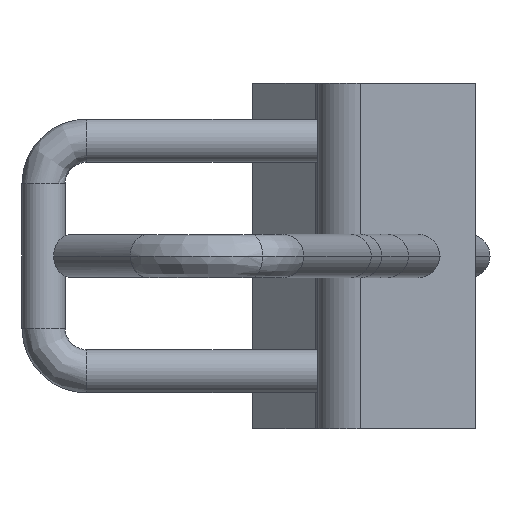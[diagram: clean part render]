
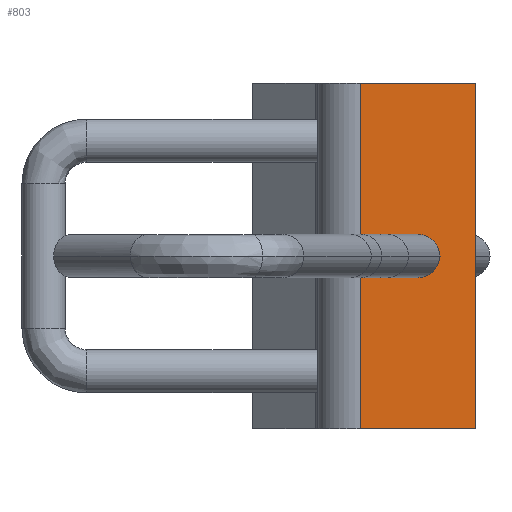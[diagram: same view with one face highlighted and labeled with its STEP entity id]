
A CAD part, left-side view. The second image highlights one B-rep face of the part: STEP entity #803.
In plain terms, the highlighted planar face has unit normal (-1, 0, 0).
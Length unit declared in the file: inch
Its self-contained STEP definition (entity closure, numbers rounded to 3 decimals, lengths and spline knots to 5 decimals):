
#575=EDGE_CURVE('',#1025,#1340,#1341,.T.);
#649=EDGE_CURVE('',#1448,#1449,#1450,.T.);
#729=EDGE_CURVE('',#1340,#1449,#1556,.T.);
#803=ADVANCED_FACE('',(#1654,#1655),#1656,.T.);
#823=EDGE_CURVE('',#1681,#1682,#1683,.T.);
#855=EDGE_CURVE('',#1025,#1448,#1720,.T.);
#857=EDGE_CURVE('',#1682,#1681,#1722,.T.);
#1025=VERTEX_POINT('',#1919);
#1340=VERTEX_POINT('',#3029);
#1341=LINE('',#3030,#3031);
#1448=VERTEX_POINT('',#3267);
#1449=VERTEX_POINT('',#3268);
#1450=LINE('',#3269,#3270);
#1556=LINE('',#3479,#3480);
#1654=FACE_OUTER_BOUND('',#3721,.T.);
#1655=FACE_BOUND('',#3722,.T.);
#1656=PLANE('',#3723);
#1681=VERTEX_POINT('',#3760);
#1682=VERTEX_POINT('',#3761);
#1683=ELLIPSE('',#3762,0.19058,0.1875);
#1720=LINE('',#3824,#3825);
#1722=ELLIPSE('',#3828,0.19058,0.1875);
#1919=CARTESIAN_POINT('',(3.52252,-1.14678,0.0));
#3029=CARTESIAN_POINT('',(3.52252,-1.14678,3.0));
#3030=CARTESIAN_POINT('',(3.52252,-1.14678,0.0));
#3031=VECTOR('',#4534,1.0);
#3267=CARTESIAN_POINT('',(3.52252,-0.14678,0.0));
#3268=CARTESIAN_POINT('',(3.52252,-0.14678,3.0));
#3269=CARTESIAN_POINT('',(3.52252,-0.14678,0.0));
#3270=VECTOR('',#4629,1.0);
#3479=CARTESIAN_POINT('',(3.52252,-1.14678,3.0));
#3480=VECTOR('',#4739,1.0);
#3721=EDGE_LOOP('',(#4896,#4897,#4898,#4899));
#3722=EDGE_LOOP('',(#4900,#4901));
#3723=AXIS2_PLACEMENT_3D('',#4902,#4903,#4904);
#3760=CARTESIAN_POINT('',(3.52252,-0.83131,1.5));
#3761=CARTESIAN_POINT('',(3.52252,-0.45015,1.5));
#3762=AXIS2_PLACEMENT_3D('',#4937,#4938,#4939);
#3824=CARTESIAN_POINT('',(3.52252,-1.14678,0.0));
#3825=VECTOR('',#4983,1.0);
#3828=AXIS2_PLACEMENT_3D('',#4984,#4985,#4986);
#4534=DIRECTION('',(0.0,0.0,1.0));
#4629=DIRECTION('',(0.0,0.0,1.0));
#4739=DIRECTION('',(0.0,1.0,0.0));
#4896=ORIENTED_EDGE('',*,*,#729,.T.);
#4897=ORIENTED_EDGE('',*,*,#649,.F.);
#4898=ORIENTED_EDGE('',*,*,#855,.F.);
#4899=ORIENTED_EDGE('',*,*,#575,.T.);
#4900=ORIENTED_EDGE('',*,*,#857,.F.);
#4901=ORIENTED_EDGE('',*,*,#823,.F.);
#4902=CARTESIAN_POINT('',(3.52252,-0.64678,0.0));
#4903=DIRECTION('',(-1.0,-0.0,0.0));
#4904=DIRECTION('',(0.0,-1.0,-0.0));
#4937=CARTESIAN_POINT('',(3.52252,-0.64073,1.5));
#4938=DIRECTION('',(-1.0,0.0,0.0));
#4939=DIRECTION('',(0.0,-1.0,0.0));
#4983=DIRECTION('',(0.0,1.0,0.0));
#4984=CARTESIAN_POINT('',(3.52252,-0.64073,1.5));
#4985=DIRECTION('',(-1.0,0.0,0.0));
#4986=DIRECTION('',(0.0,-1.0,0.0));
